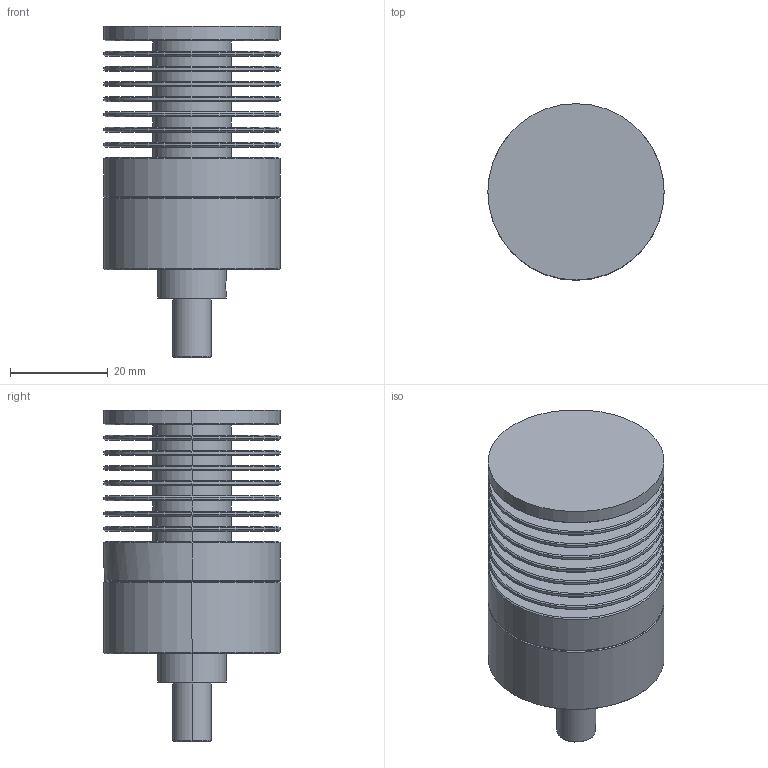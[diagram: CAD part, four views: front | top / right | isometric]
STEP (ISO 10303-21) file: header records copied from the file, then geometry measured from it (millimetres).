
FILE_DESCRIPTION((''),'2;1');
FILE_NAME('12W12V000_ASM_13_ASM__SW0002','2024-01-18T12:59:21',('Rex.jiang'),(''),'CREO PARAMETRIC BY PTC INC, 2023014','CREO PARAMETRIC BY PTC INC, 2023014','');
FILE_SCHEMA(('AP242_MANAGED_MODEL_BASED_3D_ENGINEERING_MIM_LF { 1 0 10303 442 1 1 4 }'));
Length unit declared in the file: millimetre
Products named in the file (1): 12W12V000_ASM_13_ASM__SW0002
Bounding box: 36 x 36 x 67.7 mm (x, y, z)
Volume: 34068.6 mm3; surface area: 22243.3 mm2
Topology: 1 solids, 1 shells, 138 faces, 358 edges, 242 vertices
Faces by surface type: cylinder 55, cone 50, plane 31, bspline 2
Entity records: 4695 total; most frequent: CARTESIAN_POINT 1057, DIRECTION 834, ORIENTED_EDGE 712, AXIS2_PLACEMENT_3D 357, EDGE_CURVE 356, VERTEX_POINT 242, CIRCLE 221, EDGE_LOOP 162
